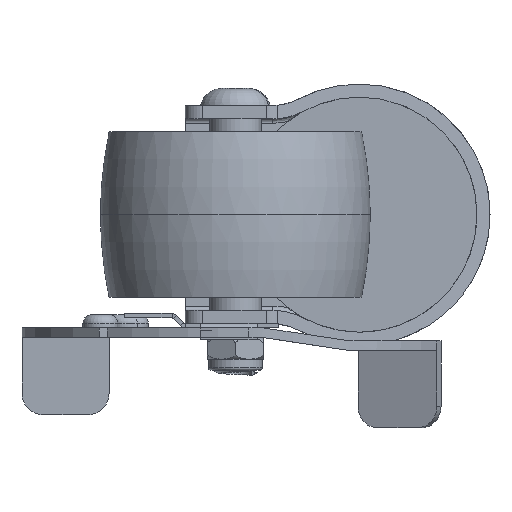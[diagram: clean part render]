
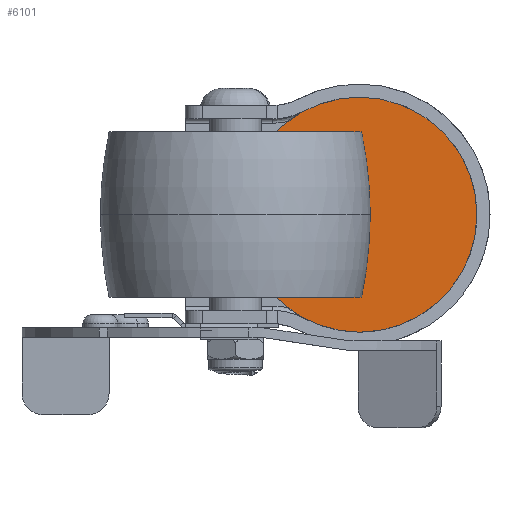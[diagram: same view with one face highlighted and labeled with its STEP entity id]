
A CAD part, front view. The second image highlights one B-rep face of the part: STEP entity #6101.
In plain terms, the highlighted planar face has unit normal (0, -1, 0).
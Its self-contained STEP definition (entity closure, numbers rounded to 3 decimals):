
#612 = DIRECTION ( 'NONE',  ( 0., 0., 1. ) ) ;
#2225 = AXIS2_PLACEMENT_3D ( 'NONE', #11259, #3055, #2978 ) ;
#2978 = DIRECTION ( 'NONE',  ( 0., 0., 1. ) ) ;
#3055 = DIRECTION ( 'NONE',  ( 0., 1., 0. ) ) ;
#3280 = EDGE_LOOP ( 'NONE', ( #10278, #17816 ) ) ;
#3415 = FACE_OUTER_BOUND ( 'NONE', #3280, .T. ) ;
#3832 = DIRECTION ( 'NONE',  ( 0., 0., 1. ) ) ;
#4018 = DIRECTION ( 'NONE',  ( 0., 1., 0. ) ) ;
#4075 = CARTESIAN_POINT ( 'NONE',  ( 0., 57., -27. ) ) ;
#6069 = CARTESIAN_POINT ( 'NONE',  ( 0., 57., 27. ) ) ;
#6101 = ADVANCED_FACE ( 'NONE', ( #3415 ), #10468, .F. ) ;
#7846 = VERTEX_POINT ( 'NONE', #4075 ) ;
#8538 = CARTESIAN_POINT ( 'NONE',  ( 0., 57., 0. ) ) ;
#8679 = CIRCLE ( 'NONE', #2225, 27. ) ;
#9868 = AXIS2_PLACEMENT_3D ( 'NONE', #16755, #19921, #3832 ) ;
#10278 = ORIENTED_EDGE ( 'NONE', *, *, #18020, .F. ) ;
#10468 = PLANE ( 'NONE',  #16813 ) ;
#11259 = CARTESIAN_POINT ( 'NONE',  ( 0., 57., 0. ) ) ;
#13077 = VERTEX_POINT ( 'NONE', #6069 ) ;
#16568 = EDGE_CURVE ( 'NONE', #13077, #7846, #18397, .T. ) ;
#16755 = CARTESIAN_POINT ( 'NONE',  ( 0., 57., 0. ) ) ;
#16813 = AXIS2_PLACEMENT_3D ( 'NONE', #8538, #4018, #612 ) ;
#17816 = ORIENTED_EDGE ( 'NONE', *, *, #16568, .F. ) ;
#18020 = EDGE_CURVE ( 'NONE', #7846, #13077, #8679, .T. ) ;
#18397 = CIRCLE ( 'NONE', #9868, 27. ) ;
#19921 = DIRECTION ( 'NONE',  ( 0., 1., 0. ) ) ;
